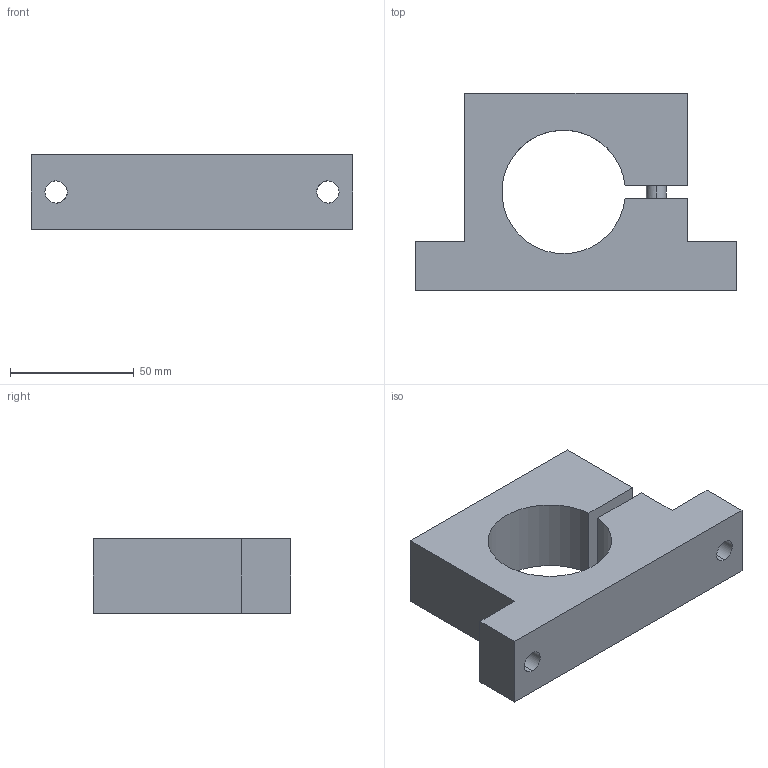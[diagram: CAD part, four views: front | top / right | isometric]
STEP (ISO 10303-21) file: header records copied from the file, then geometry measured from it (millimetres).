
FILE_DESCRIPTION(('CATIA V5 STEP Exchange'),'2;1');
FILE_NAME('W:\CATALOGO GENERAL 2018\FICHEROS CAD\023-BRIDAS\06-FI\FI 50.stp','2017-11-28T12:04:16+00:00',('none'),('none'),'CATIA Version 5 Release 17 (IN-10)','CATIA V5 STEP AP203','none');
FILE_SCHEMA(('CONFIG_CONTROL_DESIGN'));
Length unit declared in the file: millimetre
Products named in the file (1): FI 50
Bounding box: 130 x 80 x 30 mm (x, y, z)
Volume: 174516.9 mm3; surface area: 31994.7 mm2
Topology: 1 solids, 1 shells, 27 faces, 69 edges, 46 vertices
Faces by surface type: plane 15, cylinder 12
Entity records: 1187 total; most frequent: CARTESIAN_POINT 505, ORIENTED_EDGE 138, DIRECTION 107, EDGE_CURVE 69, VERTEX_POINT 46, VECTOR 45, LINE 45, AXIS2_PLACEMENT_3D 36
